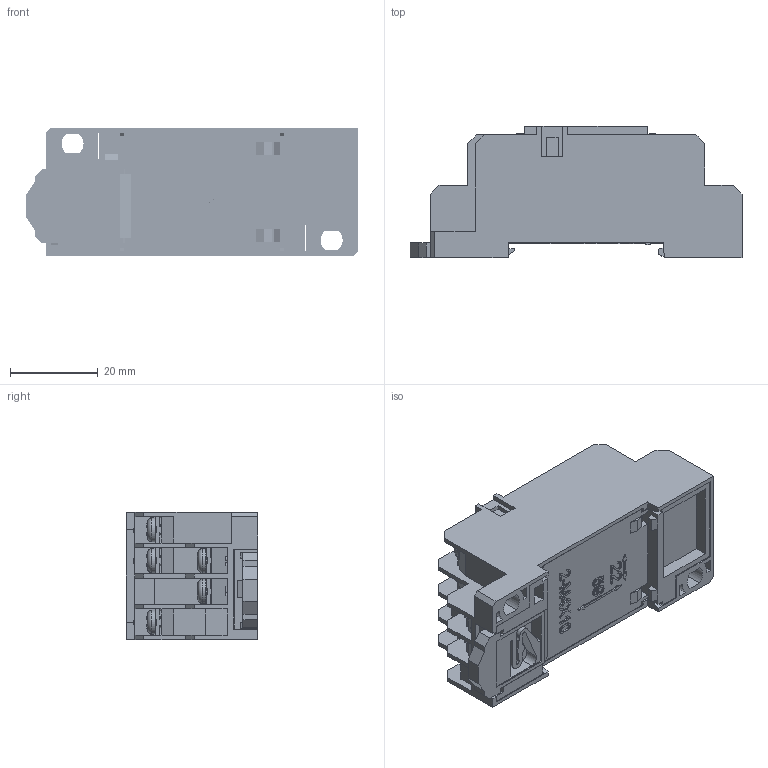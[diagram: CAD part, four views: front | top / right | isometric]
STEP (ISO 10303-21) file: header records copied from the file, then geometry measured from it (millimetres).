
FILE_DESCRIPTION(/* description */ (''),/* implementation_level */ '2;1');
FILE_NAME(/* name */ '18F-3Z-C1(PYF11A)_ZP.stp',/* time_stamp */ '2019-01-02T14:33:12+08:00',/* author */ (''),/* organization */ (''),/* preprocessor_version */ 'ST-DEVELOPER v16.7',/* originating_system */ 'SIEMENS PLM Software NX 12.0',/* authorisation */ '');
FILE_SCHEMA (('AUTOMOTIVE_DESIGN { 1 0 10303 214 3 1 1 1 }'));
Products named in the file (17): HT7.730.028; HT7.730.027; HT7.730.026; HT7.730.025; HT7.730.024; HT7.730.023; HT7.730.022; HT7.730.021; HT7.730.019; HT7.730.020; HT7.730.018; HT7.730.009; HT7.810.005-sl; M3X7.5X6X5.4; HT8.205.001; HT7.814.004-sl2; 18F-3Z-C1(PYF11A)_ZP
Assembly tree (36 placements, depth 2):
  18F-3Z-C1(PYF11A)_ZP
    HT7.814.004-sl2
    HT8.205.001
    M3X7.5X6X5.4  x11
    HT7.810.005-sl
    HT7.730.009  x11
    HT7.730.018
    HT7.730.020
    HT7.730.019
    HT7.730.021
    HT7.730.022
    HT7.730.023
    HT7.730.024
    HT7.730.025
    HT7.730.026
    HT7.730.027
    HT7.730.028
Bounding box: 75.6 x 30 x 29 mm (x, y, z)
Volume: 21176.8 mm3; surface area: 41466 mm2
Topology: 36 solids, 36 shells, 3905 faces, 10728 edges, 6849 vertices
Faces by surface type: plane 2649, cylinder 749, bspline 242, extrusion 188, torus 29, cone 26, sphere 22
Full cylindrical faces by diameter (mm): 2 x1, 2.3 x9, 2.5 x102, 3 x11, 3.5 x1, 3.8 x2, 5.498 x11
Entity records: 92236 total; most frequent: CARTESIAN_POINT 22285, ORIENTED_EDGE 12600, DIRECTION 10461, EDGE_CURVE 6300, VECTOR 5107, LINE 4939, VERTEX_POINT 4174, AXIS2_PLACEMENT_3D 2677
